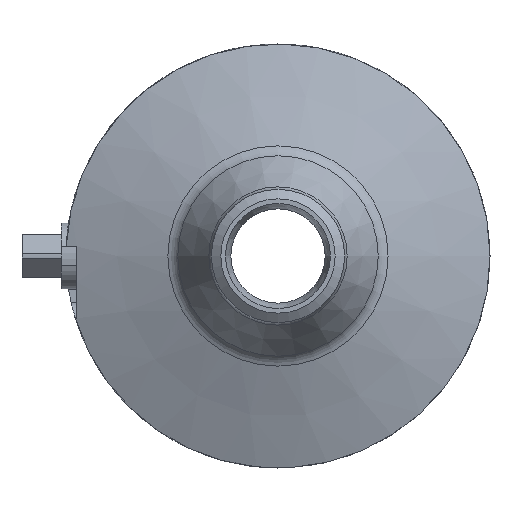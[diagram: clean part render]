
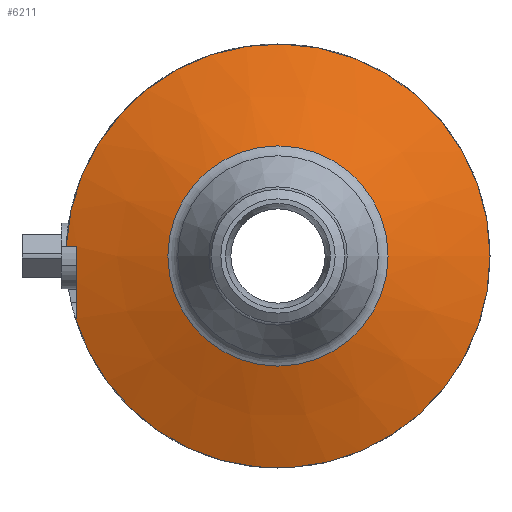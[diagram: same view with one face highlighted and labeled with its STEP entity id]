
A CAD part, left-side view. The second image highlights one B-rep face of the part: STEP entity #6211.
In plain terms, the highlighted conical face has half-angle 70 degrees and reference radius 51.276 mm.
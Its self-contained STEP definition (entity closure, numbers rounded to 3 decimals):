
#5331=CARTESIAN_POINT('',(-21.748,64.0,3.));
#5332=VERTEX_POINT('',#5331);
#5339=CARTESIAN_POINT('',(-20.5,67.433,3.));
#5340=VERTEX_POINT('',#5339);
#5341=CARTESIAN_POINT('',(-20.5,67.433,3.));
#5342=CARTESIAN_POINT('',(-21.14,65.672,3.));
#5343=CARTESIAN_POINT('',(-21.748,64.0,3.));
#5351=(BOUNDED_CURVE()B_SPLINE_CURVE(2,(#5341,#5342,#5343),.UNSPECIFIED.,.F.,.U.)B_SPLINE_CURVE_WITH_KNOTS((3,3),(0.0,0.271),.UNSPECIFIED.)CURVE()GEOMETRIC_REPRESENTATION_ITEM()RATIONAL_B_SPLINE_CURVE((1.0,1.004,1.008))REPRESENTATION_ITEM(''));
#5352=EDGE_CURVE('',#5340,#5332,#5351,.T.);
#5368=CARTESIAN_POINT('',(-20.5,64.51,-19.866));
#5369=VERTEX_POINT('',#5368);
#5376=CARTESIAN_POINT('',(-20.677,64.0,-19.866));
#5377=VERTEX_POINT('',#5376);
#5378=CARTESIAN_POINT('',(-20.677,64.0,-19.866));
#5379=CARTESIAN_POINT('',(-20.589,64.254,-19.866));
#5380=CARTESIAN_POINT('',(-20.5,64.51,-19.866));
#5388=(BOUNDED_CURVE()B_SPLINE_CURVE(2,(#5378,#5379,#5380),.UNSPECIFIED.,.F.,.U.)B_SPLINE_CURVE_WITH_KNOTS((3,3),(3.715,3.754),.UNSPECIFIED.)CURVE()GEOMETRIC_REPRESENTATION_ITEM()RATIONAL_B_SPLINE_CURVE((1.001,1.001,1.0))REPRESENTATION_ITEM(''));
#5389=EDGE_CURVE('',#5377,#5369,#5388,.T.);
#5442=CARTESIAN_POINT('',(-21.748,64.0,3.));
#5443=CARTESIAN_POINT('',(-21.939,64.,-8.176));
#5444=CARTESIAN_POINT('',(-20.677,64.0,-19.866));
#5452=(BOUNDED_CURVE()B_SPLINE_CURVE(2,(#5442,#5443,#5444),.UNSPECIFIED.,.F.,.U.)B_SPLINE_CURVE_WITH_KNOTS((3,3),(1.841,4.147),.UNSPECIFIED.)CURVE()GEOMETRIC_REPRESENTATION_ITEM()RATIONAL_B_SPLINE_CURVE((1.027,1.031,1.004))REPRESENTATION_ITEM(''));
#5453=EDGE_CURVE('',#5332,#5377,#5452,.T.);
#5514=CARTESIAN_POINT('',(-20.5,0.0,0.0));
#5515=DIRECTION('',(-1.0,0.0,0.0));
#5516=DIRECTION('',(0.0,-1.0,0.0));
#5517=AXIS2_PLACEMENT_3D('',#5514,#5515,#5516);
#5518=CIRCLE('',#5517,67.5);
#5519=EDGE_CURVE('',#5369,#5340,#5518,.T.);
#6189=CARTESIAN_POINT('',(-26.405,0.0,0.0));
#6190=DIRECTION('',(1.0,0.0,0.0));
#6191=DIRECTION('',(0.0,-1.0,0.0));
#6192=AXIS2_PLACEMENT_3D('',#6189,#6190,#6191);
#6193=CONICAL_SURFACE('',#6192,51.276,70.0);
#6194=ORIENTED_EDGE('',*,*,#5389,.T.);
#6195=ORIENTED_EDGE('',*,*,#5519,.T.);
#6196=ORIENTED_EDGE('',*,*,#5352,.T.);
#6197=ORIENTED_EDGE('',*,*,#5453,.T.);
#6198=EDGE_LOOP('',(#6194,#6195,#6196,#6197));
#6199=FACE_OUTER_BOUND('',#6198,.T.);
#6200=CARTESIAN_POINT('',(-32.31,-35.052,0.0));
#6201=VERTEX_POINT('',#6200);
#6202=CARTESIAN_POINT('',(-32.31,0.0,0.0));
#6203=DIRECTION('',(-1.0,0.0,0.0));
#6204=DIRECTION('',(0.0,-1.0,0.0));
#6205=AXIS2_PLACEMENT_3D('',#6202,#6203,#6204);
#6206=CIRCLE('',#6205,35.052);
#6207=EDGE_CURVE('',#6201,#6201,#6206,.T.);
#6208=ORIENTED_EDGE('',*,*,#6207,.F.);
#6209=EDGE_LOOP('',(#6208));
#6210=FACE_BOUND('',#6209,.T.);
#6211=ADVANCED_FACE('',(#6199,#6210),#6193,.T.);
